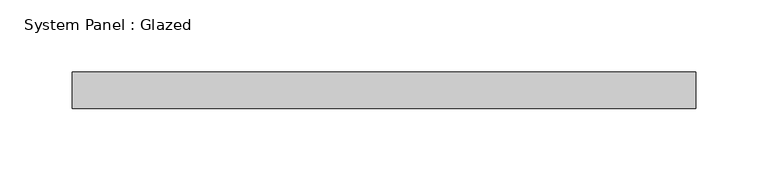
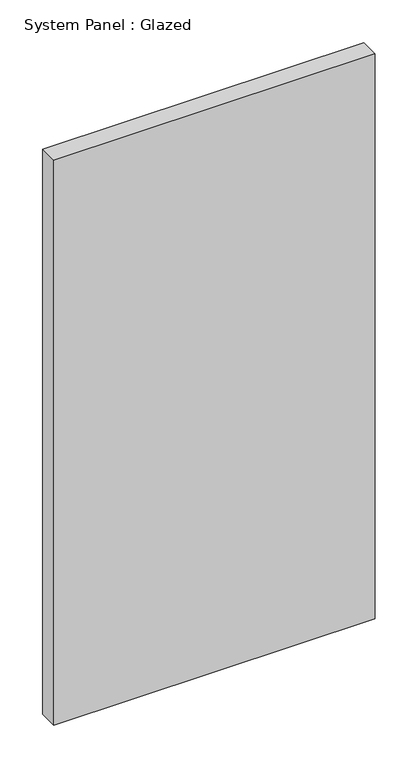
"""IFC4 building model written with IfcOpenShell, lengths in millimetres: plate geometry, System Panel : Glazed."""

from ifc_helpers import new_model, si_unit, origin, origin_with_axes, place, context, project, spatial, polyline, outline, extrude, source, transform, mapped, element, save


def system_panel_glazed_cfc5af22(model_context):
    return source(origin(), model_context, "Body", "SweptSolid", [
        extrude(outline(polyline([(215.9, 19.05), (-215.9, 19.05), (-215.9, 44.45), (215.9, 44.45), (215.9, 19.05)])), origin_with_axes(), (0.0, 0.0, 1.0), 802.4190025),
    ])


if __name__ == "__main__":
    model = new_model("IFC4")
    model_context = context("Model", 3, world=origin())
    ifc_project = project(units=[si_unit("LENGTHUNIT", "METRE", prefix="MILLI")], contexts=[model_context])
    site = spatial("IfcSite", under=ifc_project)
    building = spatial("IfcBuilding", under=site)
    placement = place(None, origin())
    system_panel_glazed_shape = system_panel_glazed_cfc5af22(model_context)
    element("IfcPlate", 1, ObjectType="System Panel : Glazed", at=placement, inside=building, context=model_context, shape_type="MappedRepresentation", body=[
        mapped(system_panel_glazed_shape, transform((0.0, 0.0, 0.0), x_axis=(1.0, 0.0, 0.0), y_axis=(0.0, 1.0, 0.0), z_axis=(0.0, 0.0, 1.0))),
    ])
    save(model, "model.ifc")
